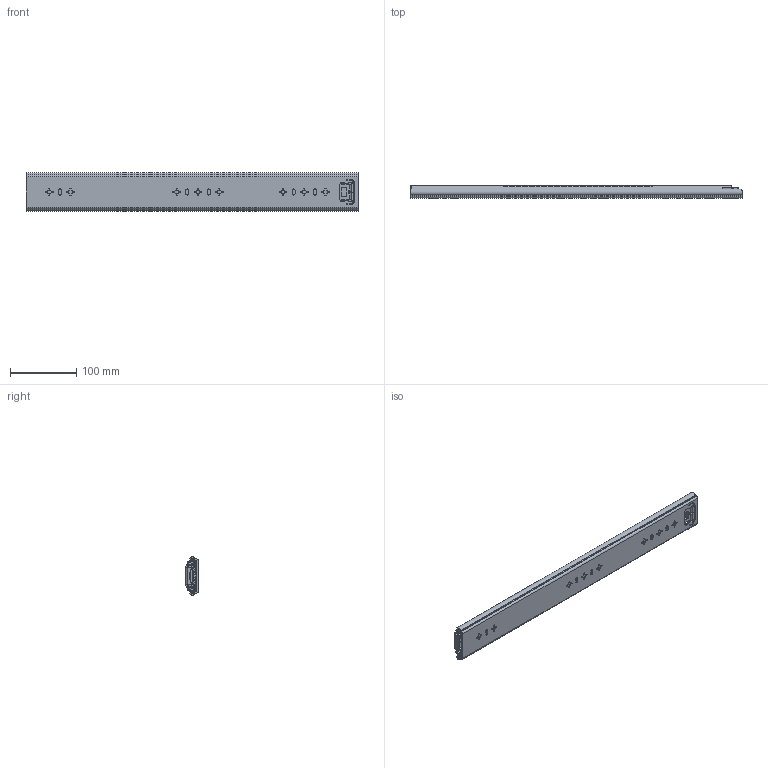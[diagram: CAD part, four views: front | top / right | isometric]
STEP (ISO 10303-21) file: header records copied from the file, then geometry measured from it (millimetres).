
FILE_DESCRIPTION((''),'2;1');
FILE_NAME('1057-02-20_ASM','2023-12-23T',('jishu015'),(''),'PRO/ENGINEER BY PARAMETRIC TECHNOLOGY CORPORATION, 2010280','PRO/ENGINEER BY PARAMETRIC TECHNOLOGY CORPORATION, 2010280','');
FILE_SCHEMA(('CONFIG_CONTROL_DESIGN'));
Products named in the file (14): KP-57-01WEIKE-18__; 1057WEIJIAO__; 1057DAZHUJIA-14GE__; 1057-5-6GANZHU__; 1057DAZHUJIA-14GE___ASM; KP-57-01ZHONGGUI-18__; 57-ZHONGGUIDINWEIJIAN__; KP-57-01ZHONGGUI-18___ASM; 1057XIAOZHUJIA__; 1057XIAOZHUJIA-14GE___ASM; KP-57-01NEIGUI-18__; 45TIEBACHA__; KP-57-01NEIGUI-18___ASM; 1057-02-20_ASM
Assembly tree (80 placements, depth 3):
  1057-02-20_ASM
    KP-57-01WEIKE-18__
    1057WEIJIAO__
    1057DAZHUJIA-14GE___ASM
      1057DAZHUJIA-14GE__
      1057-5-6GANZHU__  x32
    KP-57-01ZHONGGUI-18___ASM
      KP-57-01ZHONGGUI-18__
      57-ZHONGGUIDINWEIJIAN__
    1057XIAOZHUJIA-14GE___ASM
      1057XIAOZHUJIA__
      1057-5-6GANZHU__  x36
    KP-57-01NEIGUI-18___ASM
      KP-57-01NEIGUI-18__
      45TIEBACHA__
Bounding box: 500 x 19 x 57.67 mm (x, y, z)
Volume: 216604.1 mm3; surface area: 251683.8 mm2
Topology: 76 solids, 78 shells, 2152 faces, 6027 edges, 3748 vertices
Faces by surface type: plane 1016, cylinder 870, sphere 144, cone 74, bspline 42, torus 6
Entity records: 68151 total; most frequent: CARTESIAN_POINT 14106, DIRECTION 11441, ORIENTED_EDGE 11222, EDGE_CURVE 5613, AXIS2_PLACEMENT_3D 3924, VERTEX_POINT 3614, VECTOR 3593, LINE 3593
